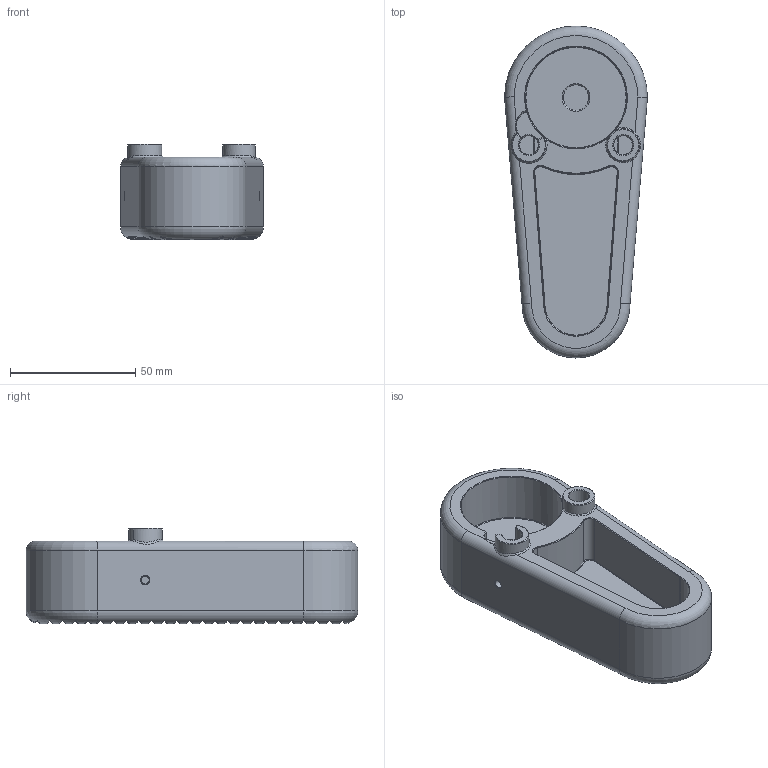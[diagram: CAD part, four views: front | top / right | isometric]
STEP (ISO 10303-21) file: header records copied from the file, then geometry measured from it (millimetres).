
FILE_DESCRIPTION(/* description */ (''),/* implementation_level */ '2;1');
FILE_NAME(/* name */ 'PDW buttstock.step',/* time_stamp */ '2025-11-28T20:54:55-07:00',/* author */ (''),/* organization */ (''),/* preprocessor_version */ 'ST-DEVELOPER v20.1',/* originating_system */ 'Autodesk Translation Framework v14.21.0.0',/* authorisation */ '');
FILE_SCHEMA (('AUTOMOTIVE_DESIGN { 1 0 10303 214 3 1 1 }'));
Length unit declared in the file: inch
Products named in the file (1): PDW buttstock
Bounding box: 57.15 x 132.72 x 38.1 mm (x, y, z)
Volume: 133780.8 mm3; surface area: 30679 mm2
Topology: 1 solids, 1 shells, 213 faces, 533 edges, 324 vertices
Faces by surface type: plane 137, cone 30, bspline 22, cylinder 20, torus 4
Full cylindrical faces by diameter (mm): 3.175 x2, 8.001 x2, 10.16 x1, 12.973 x1, 40.64 x1
Entity records: 8074 total; most frequent: CARTESIAN_POINT 3225, ORIENTED_EDGE 1066, DIRECTION 937, EDGE_CURVE 533, AXIS2_PLACEMENT_3D 353, VERTEX_POINT 324, LINE 231, VECTOR 231
